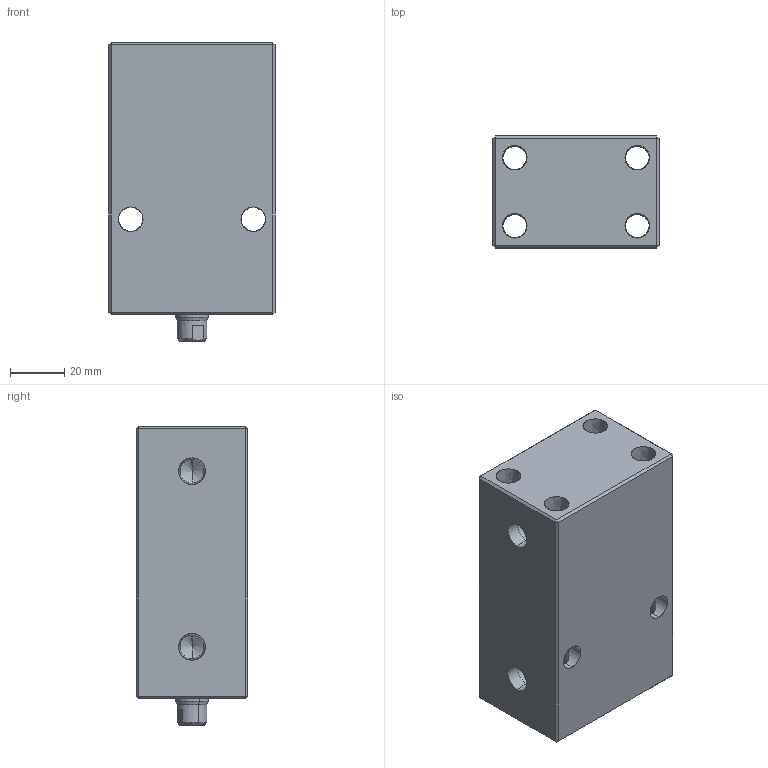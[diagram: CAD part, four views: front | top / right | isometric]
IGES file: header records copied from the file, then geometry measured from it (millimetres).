
Start section: SolidWorks IGES file using analytic representation for surfaces
Global section: file name: E:\ALL-SSVT-BLOCK\IGS MODEL-20BORE\BC04-20-50F.IGS; native system: SolidWorks 2019; preprocessor: SolidWorks 2019; author: SSVT; date: 210823.180116; units: millimetre
Bounding box: 61 x 41 x 110 mm (x, y, z)
Surface area: 43677.3 mm2 (no closed solid volume)
Topology: 0 solids, 0 shells, 95 faces, 1670 edges, 1664 vertices
Faces by surface type: revolution 62, bspline 33
